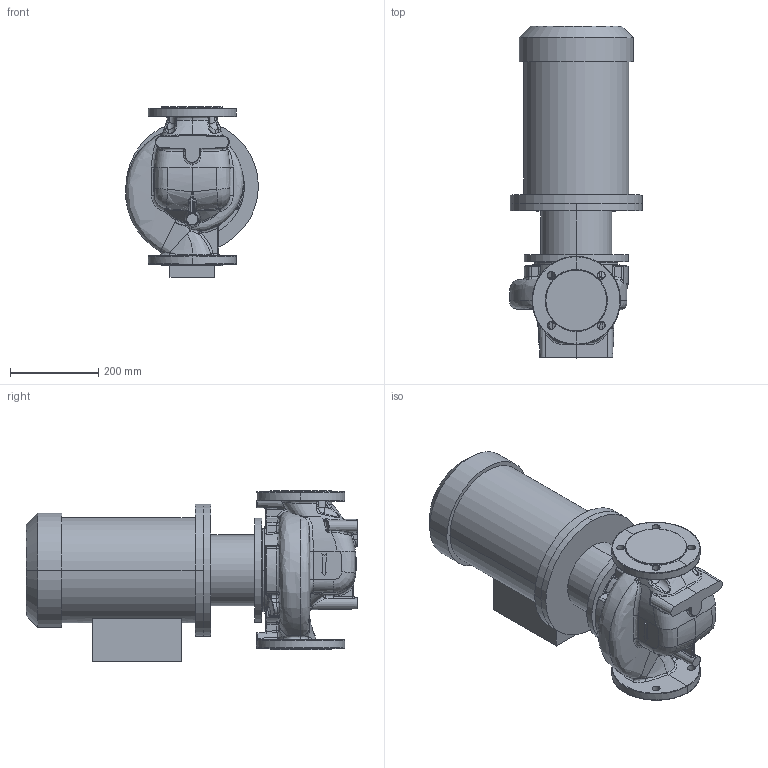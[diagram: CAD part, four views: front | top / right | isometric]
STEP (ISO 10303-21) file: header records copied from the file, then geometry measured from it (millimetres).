
FILE_DESCRIPTION (( 'STEP AP214' ), '1' );
FILE_NAME ('KRL 80-160-2-7,5.STEP', '2026-04-06T13:34:49', ( '' ), ( '' ), 'SwSTEP 2.0', 'SolidWorks 2016', '' );
FILE_SCHEMA (( 'AUTOMOTIVE_DESIGN' ));
Length unit declared in the file: millimetre
Products named in the file (1): KRL 80-160-2-7,5
Bounding box: 301.24 x 752.3 x 386 mm (x, y, z)
Volume: 34700976.4 mm3; surface area: 1305522.2 mm2
Topology: 4 solids, 5 shells, 589 faces, 1479 edges, 888 vertices
Faces by surface type: bspline 319, cylinder 115, plane 96, cone 31, torus 16, sphere 12
Entity records: 59938 total; most frequent: CARTESIAN_POINT 42340, ORIENTED_EDGE 2896, DIRECTION 1510, EDGE_CURVE 1448, VERTEX_POINT 888, B_SPLINE_CURVE_WITH_KNOTS 707, AXIS2_PLACEMENT_3D 641, EDGE_LOOP 624
